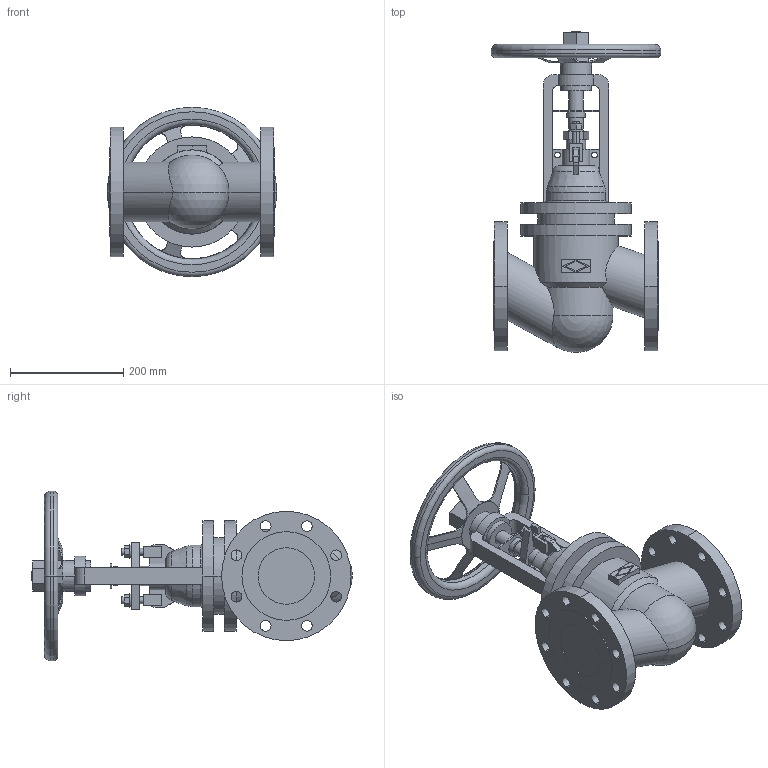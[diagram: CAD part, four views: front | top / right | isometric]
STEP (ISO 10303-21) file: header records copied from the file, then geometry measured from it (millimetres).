
FILE_DESCRIPTION(('OneSpaceDesigner STEP Export'),'2;1');
FILE_NAME('c000004209.stp','2010-04-30T 8:20:14',(''),(''),'OneSpace Designer STEP processor for AP214 (Solid Model)','OneSpace Modeling 15.50B 03-Nov-2007 (C) CoCreate Software GmbH','');
FILE_SCHEMA(('AUTOMOTIVE_DESIGN { 1 0 10303 214 1 1 1 1 }'));
Length unit declared in the file: millimetre
Products named in the file (1): 1
Bounding box: 300 x 567.62 x 300 mm (x, y, z)
Volume: 9026628 mm3; surface area: 652468.6 mm2
Topology: 1 solids, 1 shells, 331 faces, 909 edges, 599 vertices
Faces by surface type: cylinder 150, plane 145, torus 22, cone 12, sphere 2
Entity records: 13703 total; most frequent: CARTESIAN_POINT 3162, ORIENTED_EDGE 1814, DIRECTION 1405, EDGE_CURVE 907, VERTEX_POINT 599, AXIS2_PLACEMENT_3D 487, VECTOR 431, LINE 431
